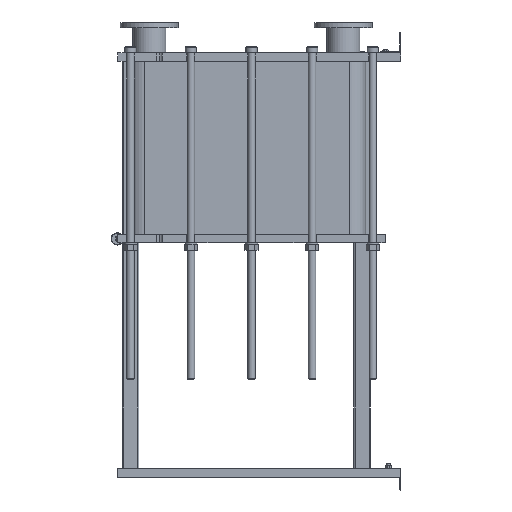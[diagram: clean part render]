
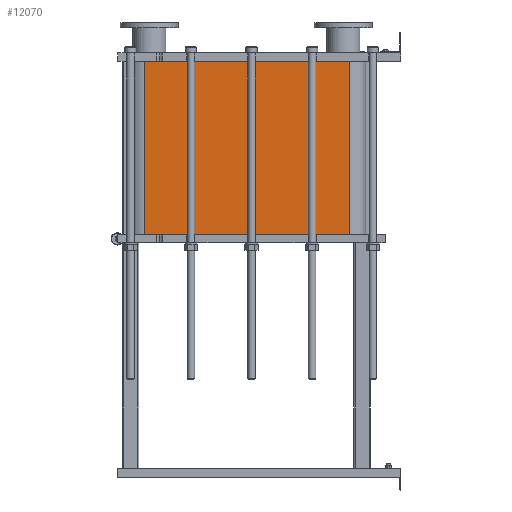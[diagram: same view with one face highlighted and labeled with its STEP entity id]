
A CAD part, left-side view. The second image highlights one B-rep face of the part: STEP entity #12070.
In plain terms, the highlighted planar face has unit normal (-1, 0, 0).
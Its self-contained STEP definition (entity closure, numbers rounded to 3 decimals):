
#1064=LINE('',#21140,#2164);
#1065=LINE('',#21144,#2165);
#1066=LINE('',#21146,#2166);
#1067=LINE('',#21147,#2167);
#2164=VECTOR('',#15790,10.);
#2165=VECTOR('',#15795,10.);
#2166=VECTOR('',#15796,10.);
#2167=VECTOR('',#15797,10.);
#3304=FACE_OUTER_BOUND('',#4091,.T.);
#4091=EDGE_LOOP('',(#9793,#9794,#9795,#9796));
#5677=VERTEX_POINT('',#21137);
#5678=VERTEX_POINT('',#21139);
#5679=VERTEX_POINT('',#21143);
#5680=VERTEX_POINT('',#21145);
#7118=EDGE_CURVE('',#5678,#5677,#1064,.T.);
#7120=EDGE_CURVE('',#5677,#5679,#1065,.T.);
#7121=EDGE_CURVE('',#5680,#5679,#1066,.T.);
#7122=EDGE_CURVE('',#5680,#5678,#1067,.T.);
#9793=ORIENTED_EDGE('',*,*,#7120,.T.);
#9794=ORIENTED_EDGE('',*,*,#7121,.F.);
#9795=ORIENTED_EDGE('',*,*,#7122,.T.);
#9796=ORIENTED_EDGE('',*,*,#7118,.T.);
#11441=PLANE('',#13191);
#12070=ADVANCED_FACE('',(#3304),#11441,.T.);
#13191=AXIS2_PLACEMENT_3D('',#21142,#15793,#15794);
#15790=DIRECTION('',(0.,0.,-1.));
#15793=DIRECTION('center_axis',(-1.,0.,0.));
#15794=DIRECTION('ref_axis',(0.,1.,0.));
#15795=DIRECTION('',(0.,-1.,0.));
#15796=DIRECTION('',(0.,0.,-1.));
#15797=DIRECTION('',(0.,1.,0.));
#21137=CARTESIAN_POINT('',(-248.152,1243.818,-841.8));
#21139=CARTESIAN_POINT('',(-248.152,1243.818,0.));
#21140=CARTESIAN_POINT('',(-248.152,1243.818,0.));
#21142=CARTESIAN_POINT('Origin',(-248.152,251.818,0.));
#21143=CARTESIAN_POINT('',(-248.152,251.818,-841.8));
#21144=CARTESIAN_POINT('',(-248.152,499.818,-841.8));
#21145=CARTESIAN_POINT('',(-248.152,251.818,0.));
#21146=CARTESIAN_POINT('',(-248.152,251.818,0.));
#21147=CARTESIAN_POINT('',(-248.152,251.818,0.));
